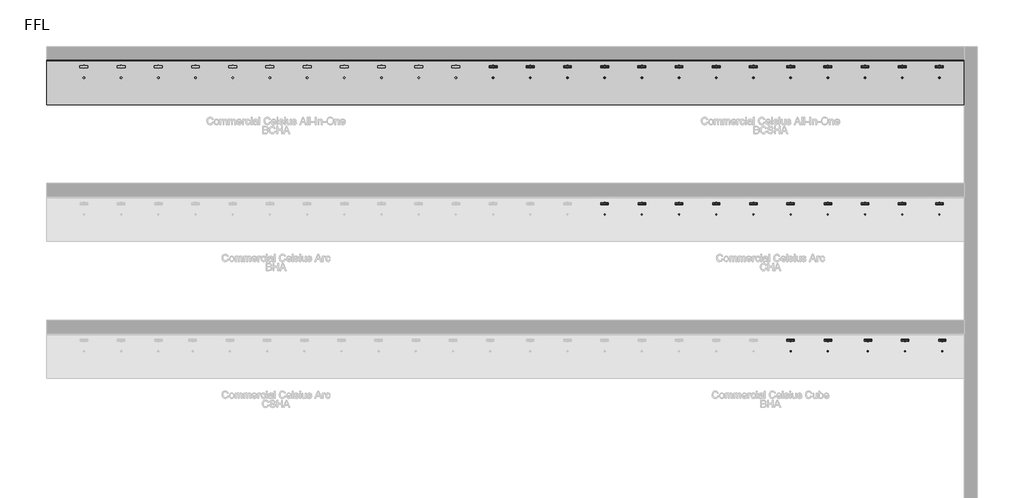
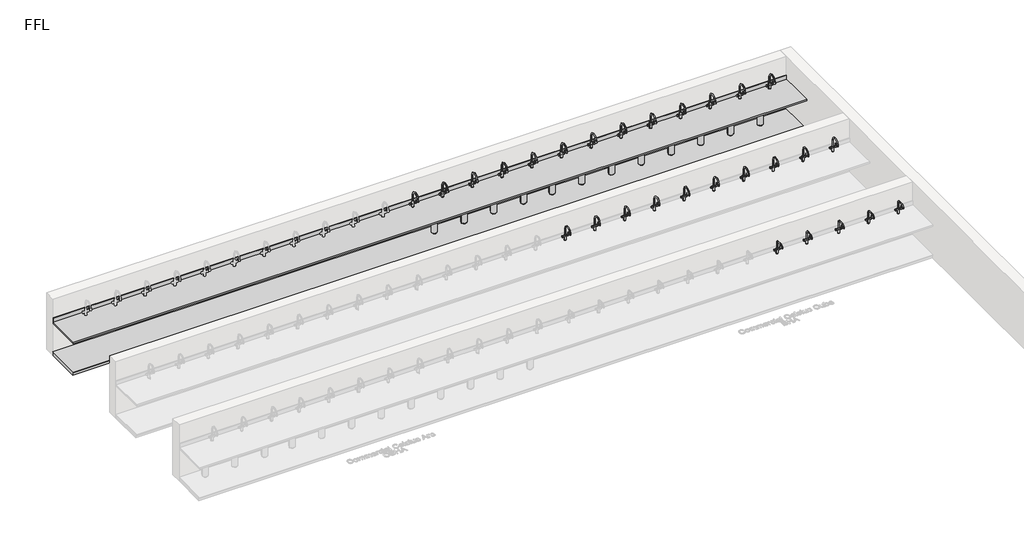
# One storey, part 4 of 10: 60 flow terminals, 2 furniture elements.
"""IFC4 building model written with IfcOpenShell, lengths in millimetres."""

from ifc_helpers import new_model, si_unit, frame, origin, place, context, project, spatial, polyline, circle_curve, transform, mapped, element, save
from ifc_brep_helpers import plane_surface, revolved_surface, advanced_brep
from components import flow_terminal_1fd3c137, bright_chrome_ca6152f3, bright_chrome_d1e259f6, co2_gas_cylinder_20234e14, bright_chrome_d5fbbf34, generic_plinth_900mm_f287d53f

model = new_model("IFC4")

# Units and contexts
model_context = context("Model", 3, world=origin())
ifc_project = project(units=[si_unit("LENGTHUNIT", "METRE", prefix="MILLI")], contexts=[model_context])

# Site, building, storey
site = spatial("IfcSite", under=ifc_project)
building = spatial("IfcBuilding", under=site)
storey = spatial("IfcBuildingStorey", under=building, Name="FFL", Elevation=0.0)

# Flow terminals
placement = place(None, origin())
flow_terminal_shape = flow_terminal_1fd3c137(model_context)
element("IfcFlowTerminal", 1, ObjectType="z_PlumFixt_Zenith_Booster : Booster", at=placement, inside=storey, context=model_context, shape_type="MappedRepresentation", body=[
    mapped(flow_terminal_shape, transform((2033.2647071, 7900.2393304, 498.0), x_axis=(1.0, 0.0, 0.0), y_axis=(0.0, 1.0, 0.0), z_axis=(0.0, 0.0, 1.0))),
])
element("IfcFlowTerminal", 2, ObjectType="z_PlumFixt_Zenith_Booster : Booster", at=placement, inside=storey, context=model_context, shape_type="MappedRepresentation", body=[
    mapped(flow_terminal_shape, transform((11032.2647071, 5140.2393304, 498.0), x_axis=(1.0, 0.0, 0.0), y_axis=(0.0, 1.0, 0.0), z_axis=(0.0, 0.0, 1.0))),
])
element("IfcFlowTerminal", 3, ObjectType="z_PlumFixt_Zenith_Booster : Booster", at=placement, inside=storey, context=model_context, shape_type="MappedRepresentation", body=[
    mapped(flow_terminal_shape, transform((10282.2647071, 5140.2393304, 498.0), x_axis=(1.0, 0.0, 0.0), y_axis=(0.0, 1.0, 0.0), z_axis=(0.0, 0.0, 1.0))),
])
element("IfcFlowTerminal", 4, ObjectType="z_PlumFixt_Zenith_Booster : Booster", at=placement, inside=storey, context=model_context, shape_type="MappedRepresentation", body=[
    mapped(flow_terminal_shape, transform((9532.2647071, 5140.2393304, 498.0), x_axis=(1.0, 0.0, 0.0), y_axis=(0.0, 1.0, 0.0), z_axis=(0.0, 0.0, 1.0))),
])
element("IfcFlowTerminal", 5, ObjectType="z_PlumFixt_Zenith_Booster : Booster", at=placement, inside=storey, context=model_context, shape_type="MappedRepresentation", body=[
    mapped(flow_terminal_shape, transform((8782.2647071, 5140.2393304, 498.0), x_axis=(1.0, 0.0, 0.0), y_axis=(0.0, 1.0, 0.0), z_axis=(0.0, 0.0, 1.0))),
])
element("IfcFlowTerminal", 6, ObjectType="z_PlumFixt_Zenith_Booster : Booster", at=placement, inside=storey, context=model_context, shape_type="MappedRepresentation", body=[
    mapped(flow_terminal_shape, transform((8032.2647071, 5140.2393304, 498.0), x_axis=(1.0, 0.0, 0.0), y_axis=(0.0, 1.0, 0.0), z_axis=(0.0, 0.0, 1.0))),
])
element("IfcFlowTerminal", 7, ObjectType="z_PlumFixt_Zenith_Booster : Booster", at=placement, inside=storey, context=model_context, shape_type="MappedRepresentation", body=[
    mapped(flow_terminal_shape, transform((7282.2647071, 5140.2393304, 498.0), x_axis=(1.0, 0.0, 0.0), y_axis=(0.0, 1.0, 0.0), z_axis=(0.0, 0.0, 1.0))),
])
element("IfcFlowTerminal", 8, ObjectType="z_PlumFixt_Zenith_Booster : Booster", at=placement, inside=storey, context=model_context, shape_type="MappedRepresentation", body=[
    mapped(flow_terminal_shape, transform((6532.2647071, 5140.2393304, 498.0), x_axis=(1.0, 0.0, 0.0), y_axis=(0.0, 1.0, 0.0), z_axis=(0.0, 0.0, 1.0))),
])
element("IfcFlowTerminal", 9, ObjectType="z_PlumFixt_Zenith_Booster : Booster", at=placement, inside=storey, context=model_context, shape_type="MappedRepresentation", body=[
    mapped(flow_terminal_shape, transform((5782.2647071, 5140.2393304, 498.0), x_axis=(1.0, 0.0, 0.0), y_axis=(0.0, 1.0, 0.0), z_axis=(0.0, 0.0, 1.0))),
])
element("IfcFlowTerminal", 10, ObjectType="z_PlumFixt_Zenith_Booster : Booster", at=placement, inside=storey, context=model_context, shape_type="MappedRepresentation", body=[
    mapped(flow_terminal_shape, transform((5032.7647071, 5140.2393304, 498.0), x_axis=(1.0, 0.0, 0.0), y_axis=(0.0, 1.0, 0.0), z_axis=(0.0, 0.0, 1.0))),
])
element("IfcFlowTerminal", 11, ObjectType="z_PlumFixt_Zenith_Booster : Booster", at=placement, inside=storey, context=model_context, shape_type="MappedRepresentation", body=[
    mapped(flow_terminal_shape, transform((4282.7647071, 5140.2393304, 498.0), x_axis=(1.0, 0.0, 0.0), y_axis=(0.0, 1.0, 0.0), z_axis=(0.0, 0.0, 1.0))),
])
element("IfcFlowTerminal", 12, ObjectType="z_PlumFixt_Zenith_Booster : Booster", at=placement, inside=storey, context=model_context, shape_type="MappedRepresentation", body=[
    mapped(flow_terminal_shape, transform((8032.2647071, 2380.2393304, 498.0), x_axis=(1.0, 0.0, 0.0), y_axis=(0.0, 1.0, 0.0), z_axis=(0.0, 0.0, 1.0))),
])
element("IfcFlowTerminal", 13, ObjectType="z_PlumFixt_Zenith_Booster : Booster", at=placement, inside=storey, context=model_context, shape_type="MappedRepresentation", body=[
    mapped(flow_terminal_shape, transform((8782.2647071, 2380.2393304, 498.0), x_axis=(1.0, 0.0, 0.0), y_axis=(0.0, 1.0, 0.0), z_axis=(0.0, 0.0, 1.0))),
])
element("IfcFlowTerminal", 14, ObjectType="z_PlumFixt_Zenith_Booster : Booster", at=placement, inside=storey, context=model_context, shape_type="MappedRepresentation", body=[
    mapped(flow_terminal_shape, transform((9589.2647071, 2380.2393304, 498.0), x_axis=(1.0, 0.0, 0.0), y_axis=(0.0, 1.0, 0.0), z_axis=(0.0, 0.0, 1.0))),
])
element("IfcFlowTerminal", 15, ObjectType="z_PlumFixt_Zenith_Booster : Booster", at=placement, inside=storey, context=model_context, shape_type="MappedRepresentation", body=[
    mapped(flow_terminal_shape, transform((10339.2647071, 2380.2393304, 498.0), x_axis=(1.0, 0.0, 0.0), y_axis=(0.0, 1.0, 0.0), z_axis=(0.0, 0.0, 1.0))),
])
element("IfcFlowTerminal", 16, ObjectType="z_PlumFixt_Zenith_Booster : Booster", at=placement, inside=storey, context=model_context, shape_type="MappedRepresentation", body=[
    mapped(flow_terminal_shape, transform((11089.2647071, 2380.2393304, 498.0), x_axis=(1.0, 0.0, 0.0), y_axis=(0.0, 1.0, 0.0), z_axis=(0.0, 0.0, 1.0))),
])
element("IfcFlowTerminal", 17, ObjectType="z_PlumFixt_Zenith_Booster : Booster", at=placement, inside=storey, context=model_context, shape_type="MappedRepresentation", body=[
    mapped(flow_terminal_shape, transform((11032.2647071, 7900.2393304, 498.0), x_axis=(1.0, 0.0, 0.0), y_axis=(0.0, 1.0, 0.0), z_axis=(0.0, 0.0, 1.0))),
])
element("IfcFlowTerminal", 18, ObjectType="z_PlumFixt_Zenith_Booster : Booster", at=placement, inside=storey, context=model_context, shape_type="MappedRepresentation", body=[
    mapped(flow_terminal_shape, transform((10282.2647071, 7900.2393304, 498.0), x_axis=(1.0, 0.0, 0.0), y_axis=(0.0, 1.0, 0.0), z_axis=(0.0, 0.0, 1.0))),
])
element("IfcFlowTerminal", 19, ObjectType="z_PlumFixt_Zenith_Booster : Booster", at=placement, inside=storey, context=model_context, shape_type="MappedRepresentation", body=[
    mapped(flow_terminal_shape, transform((9532.2647071, 7900.2393304, 498.0), x_axis=(1.0, 0.0, 0.0), y_axis=(0.0, 1.0, 0.0), z_axis=(0.0, 0.0, 1.0))),
])
element("IfcFlowTerminal", 20, ObjectType="z_PlumFixt_Zenith_Booster : Booster", at=placement, inside=storey, context=model_context, shape_type="MappedRepresentation", body=[
    mapped(flow_terminal_shape, transform((8782.2647071, 7900.2393304, 498.0), x_axis=(1.0, 0.0, 0.0), y_axis=(0.0, 1.0, 0.0), z_axis=(0.0, 0.0, 1.0))),
])
bright_chrome_shape = bright_chrome_ca6152f3(model_context)
element("IfcFlowTerminal", 21, ObjectType="z_PlumFixt_Zenith_Celsius Arc : Bright Chrome", at=placement, inside=storey, context=model_context, shape_type="MappedRepresentation", body=[
    mapped(bright_chrome_shape, transform((11032.2647071, 4864.4893304, 900.0), x_axis=(1.0, 0.0, 0.0), y_axis=(0.0, 1.0, 0.0), z_axis=(0.0, 0.0, 1.0))),
])
bright_chrome_2_shape = bright_chrome_d1e259f6(model_context)
element("IfcFlowTerminal", 22, ObjectType="z_PlumFixt_Zenith_Celsius All-In-One : Bright Chrome", at=placement, inside=storey, context=model_context, shape_type="MappedRepresentation", body=[
    mapped(bright_chrome_2_shape, transform((2782.7647071, 7637.5393304, 900.0), x_axis=(1.0, 0.0, 0.0), y_axis=(0.0, 1.0, 0.0), z_axis=(0.0, 0.0, 1.0))),
])
element("IfcFlowTerminal", 23, ObjectType="z_PlumFixt_Zenith_Celsius Arc : Brushed Chrome", at=placement, inside=storey, context=model_context, shape_type="MappedRepresentation", body=[
    mapped(bright_chrome_shape, transform((10282.2647071, 4864.4893304, 900.0), x_axis=(1.0, 0.0, 0.0), y_axis=(0.0, 1.0, 0.0), z_axis=(0.0, 0.0, 1.0))),
])
element("IfcFlowTerminal", 24, ObjectType="z_PlumFixt_Zenith_Celsius All-In-One : Brushed Chrome", at=placement, inside=storey, context=model_context, shape_type="MappedRepresentation", body=[
    mapped(bright_chrome_2_shape, transform((3532.7647071, 7637.5393304, 900.0), x_axis=(1.0, 0.0, 0.0), y_axis=(0.0, 1.0, 0.0), z_axis=(0.0, 0.0, 1.0))),
])
element("IfcFlowTerminal", 25, ObjectType="z_PlumFixt_Zenith_Celsius Arc : Brushed Gold", at=placement, inside=storey, context=model_context, shape_type="MappedRepresentation", body=[
    mapped(bright_chrome_shape, transform((9532.2647071, 4864.4893304, 900.0), x_axis=(1.0, 0.0, 0.0), y_axis=(0.0, 1.0, 0.0), z_axis=(0.0, 0.0, 1.0))),
])
element("IfcFlowTerminal", 26, ObjectType="z_PlumFixt_Zenith_Celsius All-In-One : Brushed Gold", at=placement, inside=storey, context=model_context, shape_type="MappedRepresentation", body=[
    mapped(bright_chrome_2_shape, transform((4282.7647071, 7637.5393304, 900.0), x_axis=(1.0, 0.0, 0.0), y_axis=(0.0, 1.0, 0.0), z_axis=(0.0, 0.0, 1.0))),
])
element("IfcFlowTerminal", 27, ObjectType="z_PlumFixt_Zenith_Celsius Arc : Brushed Nickel", at=placement, inside=storey, context=model_context, shape_type="MappedRepresentation", body=[
    mapped(bright_chrome_shape, transform((8782.2647071, 4864.4893304, 900.0), x_axis=(1.0, 0.0, 0.0), y_axis=(0.0, 1.0, 0.0), z_axis=(0.0, 0.0, 1.0))),
])
element("IfcFlowTerminal", 28, ObjectType="z_PlumFixt_Zenith_Celsius All-In-One : Brushed Nickel", at=placement, inside=storey, context=model_context, shape_type="MappedRepresentation", body=[
    mapped(bright_chrome_2_shape, transform((5032.7647071, 7637.5393304, 900.0), x_axis=(1.0, 0.0, 0.0), y_axis=(0.0, 1.0, 0.0), z_axis=(0.0, 0.0, 1.0))),
])
element("IfcFlowTerminal", 29, ObjectType="z_PlumFixt_Zenith_Celsius Arc : Brushed Rose Gold", at=placement, inside=storey, context=model_context, shape_type="MappedRepresentation", body=[
    mapped(bright_chrome_shape, transform((8032.2647071, 4864.4893304, 900.0), x_axis=(1.0, 0.0, 0.0), y_axis=(0.0, 1.0, 0.0), z_axis=(0.0, 0.0, 1.0))),
])
element("IfcFlowTerminal", 30, ObjectType="z_PlumFixt_Zenith_Celsius All-In-One : Brushed Rose Gold", at=placement, inside=storey, context=model_context, shape_type="MappedRepresentation", body=[
    mapped(bright_chrome_2_shape, transform((5782.2647071, 7637.5393304, 900.0), x_axis=(1.0, 0.0, 0.0), y_axis=(0.0, 1.0, 0.0), z_axis=(0.0, 0.0, 1.0))),
])
co2_gas_cylinder_shape = co2_gas_cylinder_20234e14(model_context)
element("IfcFlowTerminal", 31, ObjectType="z_PlumFixt_Zenith_CO2 Gas Cylinder : CO2 Gas Cylinder", at=placement, inside=storey, context=model_context, shape_type="MappedRepresentation", body=[
    mapped(co2_gas_cylinder_shape, transform((10737.2647071, 7525.0393304, 100.0), x_axis=(-1.0, 0.0, 0.0), y_axis=(0.0, -1.0, 0.0), z_axis=(0.0, 0.0, 1.0))),
])
element("IfcFlowTerminal", 32, ObjectType="z_PlumFixt_Zenith_CO2 Gas Cylinder : CO2 Gas Cylinder", at=placement, inside=storey, context=model_context, shape_type="MappedRepresentation", body=[
    mapped(co2_gas_cylinder_shape, transform((9987.2647071, 7525.0393304, 100.0), x_axis=(-1.0, 0.0, 0.0), y_axis=(0.0, -1.0, 0.0), z_axis=(0.0, 0.0, 1.0))),
])
element("IfcFlowTerminal", 33, ObjectType="z_PlumFixt_Zenith_CO2 Gas Cylinder : CO2 Gas Cylinder", at=placement, inside=storey, context=model_context, shape_type="MappedRepresentation", body=[
    mapped(co2_gas_cylinder_shape, transform((9237.2647071, 7525.0393304, 100.0), x_axis=(-1.0, 0.0, 0.0), y_axis=(0.0, -1.0, 0.0), z_axis=(0.0, 0.0, 1.0))),
])
element("IfcFlowTerminal", 34, ObjectType="z_PlumFixt_Zenith_CO2 Gas Cylinder : CO2 Gas Cylinder", at=placement, inside=storey, context=model_context, shape_type="MappedRepresentation", body=[
    mapped(co2_gas_cylinder_shape, transform((8487.2647071, 7525.0393304, 100.0), x_axis=(-1.0, 0.0, 0.0), y_axis=(0.0, -1.0, 0.0), z_axis=(0.0, 0.0, 1.0))),
])
element("IfcFlowTerminal", 35, ObjectType="z_PlumFixt_Zenith_CO2 Gas Cylinder : CO2 Gas Cylinder", at=placement, inside=storey, context=model_context, shape_type="MappedRepresentation", body=[
    mapped(co2_gas_cylinder_shape, transform((7737.2647071, 7525.0393304, 100.0), x_axis=(-1.0, 0.0, 0.0), y_axis=(0.0, -1.0, 0.0), z_axis=(0.0, 0.0, 1.0))),
])
element("IfcFlowTerminal", 36, ObjectType="z_PlumFixt_Zenith_CO2 Gas Cylinder : CO2 Gas Cylinder", at=placement, inside=storey, context=model_context, shape_type="MappedRepresentation", body=[
    mapped(co2_gas_cylinder_shape, transform((6987.2647071, 7525.0393304, 100.0), x_axis=(-1.0, 0.0, 0.0), y_axis=(0.0, -1.0, 0.0), z_axis=(0.0, 0.0, 1.0))),
])
element("IfcFlowTerminal", 37, ObjectType="z_PlumFixt_Zenith_CO2 Gas Cylinder : CO2 Gas Cylinder", at=placement, inside=storey, context=model_context, shape_type="MappedRepresentation", body=[
    mapped(co2_gas_cylinder_shape, transform((6237.2647071, 7525.0393304, 100.0), x_axis=(-1.0, 0.0, 0.0), y_axis=(0.0, -1.0, 0.0), z_axis=(0.0, 0.0, 1.0))),
])
element("IfcFlowTerminal", 38, ObjectType="z_PlumFixt_Zenith_CO2 Gas Cylinder : CO2 Gas Cylinder", at=placement, inside=storey, context=model_context, shape_type="MappedRepresentation", body=[
    mapped(co2_gas_cylinder_shape, transform((5487.2647071, 7525.0393304, 100.0), x_axis=(-1.0, 0.0, 0.0), y_axis=(0.0, -1.0, 0.0), z_axis=(0.0, 0.0, 1.0))),
])
element("IfcFlowTerminal", 39, ObjectType="z_PlumFixt_Zenith_CO2 Gas Cylinder : CO2 Gas Cylinder", at=placement, inside=storey, context=model_context, shape_type="MappedRepresentation", body=[
    mapped(co2_gas_cylinder_shape, transform((4765.2647071, 7526.5393304, 100.0), x_axis=(-1.0, 0.0, 0.0), y_axis=(0.0, -1.0, 0.0), z_axis=(0.0, 0.0, 1.0))),
])
element("IfcFlowTerminal", 40, ObjectType="z_PlumFixt_Zenith_CO2 Gas Cylinder : CO2 Gas Cylinder", at=placement, inside=storey, context=model_context, shape_type="MappedRepresentation", body=[
    mapped(co2_gas_cylinder_shape, transform((4015.2647071, 7526.5393304, 100.0), x_axis=(-1.0, 0.0, 0.0), y_axis=(0.0, -1.0, 0.0), z_axis=(0.0, 0.0, 1.0))),
])
element("IfcFlowTerminal", 41, ObjectType="z_PlumFixt_Zenith_CO2 Gas Cylinder : CO2 Gas Cylinder", at=placement, inside=storey, context=model_context, shape_type="MappedRepresentation", body=[
    mapped(co2_gas_cylinder_shape, transform((3265.2647071, 7526.5393304, 100.0), x_axis=(-1.0, 0.0, 0.0), y_axis=(0.0, -1.0, 0.0), z_axis=(0.0, 0.0, 1.0))),
])
element("IfcFlowTerminal", 42, ObjectType="z_PlumFixt_Zenith_CO2 Gas Cylinder : CO2 Gas Cylinder", at=placement, inside=storey, context=model_context, shape_type="MappedRepresentation", body=[
    mapped(co2_gas_cylinder_shape, transform((2515.2647071, 7526.5393304, 100.0), x_axis=(-1.0, 0.0, 0.0), y_axis=(0.0, -1.0, 0.0), z_axis=(0.0, 0.0, 1.0))),
])
element("IfcFlowTerminal", 43, ObjectType="z_PlumFixt_Zenith_Celsius Arc : Gloss Black", at=placement, inside=storey, context=model_context, shape_type="MappedRepresentation", body=[
    mapped(bright_chrome_shape, transform((7282.2647071, 4864.4893304, 900.0), x_axis=(1.0, 0.0, 0.0), y_axis=(0.0, 1.0, 0.0), z_axis=(0.0, 0.0, 1.0))),
])
element("IfcFlowTerminal", 44, ObjectType="z_PlumFixt_Zenith_Celsius All-In-One : Gloss Black", at=placement, inside=storey, context=model_context, shape_type="MappedRepresentation", body=[
    mapped(bright_chrome_2_shape, transform((6532.2647071, 7637.5393304, 900.0), x_axis=(1.0, 0.0, 0.0), y_axis=(0.0, 1.0, 0.0), z_axis=(0.0, 0.0, 1.0))),
])
element("IfcFlowTerminal", 45, ObjectType="z_PlumFixt_Zenith_Celsius Arc : Gold", at=placement, inside=storey, context=model_context, shape_type="MappedRepresentation", body=[
    mapped(bright_chrome_shape, transform((6532.2647071, 4864.4893304, 900.0), x_axis=(1.0, 0.0, 0.0), y_axis=(0.0, 1.0, 0.0), z_axis=(0.0, 0.0, 1.0))),
])
element("IfcFlowTerminal", 46, ObjectType="z_PlumFixt_Zenith_Celsius All-In-One : Gold", at=placement, inside=storey, context=model_context, shape_type="MappedRepresentation", body=[
    mapped(bright_chrome_2_shape, transform((7282.2647071, 7637.5393304, 900.0), x_axis=(1.0, 0.0, 0.0), y_axis=(0.0, 1.0, 0.0), z_axis=(0.0, 0.0, 1.0))),
])
element("IfcFlowTerminal", 47, ObjectType="z_PlumFixt_Zenith_Celsius Arc : Gunmetal", at=placement, inside=storey, context=model_context, shape_type="MappedRepresentation", body=[
    mapped(bright_chrome_shape, transform((5782.2647071, 4864.4893304, 900.0), x_axis=(1.0, 0.0, 0.0), y_axis=(0.0, 1.0, 0.0), z_axis=(0.0, 0.0, 1.0))),
])
bright_chrome_3_shape = bright_chrome_d5fbbf34(model_context)
element("IfcFlowTerminal", 48, ObjectType="z_PlumFixt_Zenith_Celsius Cube : Gunmetal", at=placement, inside=storey, context=model_context, shape_type="MappedRepresentation", body=[
    mapped(bright_chrome_3_shape, transform((8032.2647071, 2104.4893304, 900.0), x_axis=(1.0, 0.0, 0.0), y_axis=(0.0, 1.0, 0.0), z_axis=(0.0, 0.0, 1.0))),
])
element("IfcFlowTerminal", 49, ObjectType="z_PlumFixt_Zenith_Celsius All-In-One : Gunmetal", at=placement, inside=storey, context=model_context, shape_type="MappedRepresentation", body=[
    mapped(bright_chrome_2_shape, transform((8032.2647071, 7637.5393304, 900.0), x_axis=(1.0, 0.0, 0.0), y_axis=(0.0, 1.0, 0.0), z_axis=(0.0, 0.0, 1.0))),
])
element("IfcFlowTerminal", 50, ObjectType="z_PlumFixt_Zenith_Celsius Arc : Matte Black", at=placement, inside=storey, context=model_context, shape_type="MappedRepresentation", body=[
    mapped(bright_chrome_shape, transform((5032.7647071, 4864.4893304, 900.0), x_axis=(1.0, 0.0, 0.0), y_axis=(0.0, 1.0, 0.0), z_axis=(0.0, 0.0, 1.0))),
])
element("IfcFlowTerminal", 51, ObjectType="z_PlumFixt_Zenith_Celsius Cube : Matte Black", at=placement, inside=storey, context=model_context, shape_type="MappedRepresentation", body=[
    mapped(bright_chrome_3_shape, transform((8782.2647071, 2104.4893304, 900.0), x_axis=(1.0, 0.0, 0.0), y_axis=(0.0, 1.0, 0.0), z_axis=(0.0, 0.0, 1.0))),
])
element("IfcFlowTerminal", 52, ObjectType="z_PlumFixt_Zenith_Celsius All-In-One : Matte Black", at=placement, inside=storey, context=model_context, shape_type="MappedRepresentation", body=[
    mapped(bright_chrome_2_shape, transform((11032.2647071, 7637.5393304, 900.0), x_axis=(1.0, 0.0, 0.0), y_axis=(0.0, 1.0, 0.0), z_axis=(0.0, 0.0, 1.0))),
])
element("IfcFlowTerminal", 53, ObjectType="z_PlumFixt_Zenith_Celsius Arc : Nickel", at=placement, inside=storey, context=model_context, shape_type="MappedRepresentation", body=[
    mapped(bright_chrome_shape, transform((4282.7647071, 4864.4893304, 900.0), x_axis=(1.0, 0.0, 0.0), y_axis=(0.0, 1.0, 0.0), z_axis=(0.0, 0.0, 1.0))),
])
element("IfcFlowTerminal", 54, ObjectType="z_PlumFixt_Zenith_Celsius Cube : Nickel", at=placement, inside=storey, context=model_context, shape_type="MappedRepresentation", body=[
    mapped(bright_chrome_3_shape, transform((9589.2647071, 2104.4893304, 900.0), x_axis=(1.0, 0.0, 0.0), y_axis=(0.0, 1.0, 0.0), z_axis=(0.0, 0.0, 1.0))),
])
element("IfcFlowTerminal", 55, ObjectType="z_PlumFixt_Zenith_Celsius All-In-One : Nickel", at=placement, inside=storey, context=model_context, shape_type="MappedRepresentation", body=[
    mapped(bright_chrome_2_shape, transform((9532.2647071, 7637.5393304, 900.0), x_axis=(1.0, 0.0, 0.0), y_axis=(0.0, 1.0, 0.0), z_axis=(0.0, 0.0, 1.0))),
])
element("IfcFlowTerminal", 56, ObjectType="z_PlumFixt_Zenith_Celsius Cube : Platinum", at=placement, inside=storey, context=model_context, shape_type="MappedRepresentation", body=[
    mapped(bright_chrome_3_shape, transform((10339.2647071, 2104.4893304, 900.0), x_axis=(1.0, 0.0, 0.0), y_axis=(0.0, 1.0, 0.0), z_axis=(0.0, 0.0, 1.0))),
])
element("IfcFlowTerminal", 57, ObjectType="z_PlumFixt_Zenith_Celsius All-In-One : Platinum", at=placement, inside=storey, context=model_context, shape_type="MappedRepresentation", body=[
    mapped(bright_chrome_2_shape, transform((10282.2647071, 7637.5393304, 900.0), x_axis=(1.0, 0.0, 0.0), y_axis=(0.0, 1.0, 0.0), z_axis=(0.0, 0.0, 1.0))),
])
element("IfcFlowTerminal", 58, ObjectType="z_PlumFixt_Zenith_Celsius Cube : Rose Gold", at=placement, inside=storey, context=model_context, shape_type="MappedRepresentation", body=[
    mapped(bright_chrome_3_shape, transform((11089.2647071, 2104.4893304, 900.0), x_axis=(1.0, 0.0, 0.0), y_axis=(0.0, 1.0, 0.0), z_axis=(0.0, 0.0, 1.0))),
])
element("IfcFlowTerminal", 59, ObjectType="z_PlumFixt_Zenith_Celsius All-In-One : Rose Gold", at=placement, inside=storey, context=model_context, shape_type="MappedRepresentation", body=[
    mapped(bright_chrome_2_shape, transform((8782.2647071, 7637.5393304, 900.0), x_axis=(1.0, 0.0, 0.0), y_axis=(0.0, 1.0, 0.0), z_axis=(0.0, 0.0, 1.0))),
])
element("IfcFlowTerminal", 60, ObjectType="z_PlumFixt_Zenith_Celsius All-In-One : Rose Gold", at=placement, inside=storey, context=model_context, shape_type="MappedRepresentation", body=[
    mapped(bright_chrome_2_shape, transform((2033.2647071, 7637.5393304, 900.0), x_axis=(1.0, 0.0, 0.0), y_axis=(0.0, 1.0, 0.0), z_axis=(0.0, 0.0, 1.0))),
])

# Furniture
element("IfcFurniture", 61, ObjectType="Counter Top : 900mm Depth", at=placement, inside=storey, context=model_context, shape_type="AdvancedBrep", body=[
    advanced_brep(
    [(-6969.7352929, 6948.2393304, 900.0), (11530.2647071, 6948.2393304, 900.0), (11530.2647071, 7829.1893304, 900.0), (-6969.7352929, 7829.1893304, 900.0), (2757.7647071, 7714.0393304, 900.0), (2809.7647071, 7714.0393304, 900.0), (3507.7647071, 7714.0393304, 900.0), (3559.7647071, 7714.0393304, 900.0), (4257.7647071, 7714.0393304, 900.0), (4309.7647071, 7714.0393304, 900.0), (5007.7647071, 7714.0393304, 900.0), (5059.7647071, 7714.0393304, 900.0), (5757.2647071, 7714.0393304, 900.0), (5809.2647071, 7714.0393304, 900.0), (6507.2647071, 7714.0393304, 900.0), (6559.2647071, 7714.0393304, 900.0), (7257.2647071, 7714.0393304, 900.0), (7309.2647071, 7714.0393304, 900.0), (11007.2647071, 7714.0393304, 900.0), (11059.2647071, 7714.0393304, 900.0), (10257.2647071, 7714.0393304, 900.0), (10309.2647071, 7714.0393304, 900.0), (9507.2647071, 7714.0393304, 900.0), (9559.2647071, 7714.0393304, 900.0), (8757.2647071, 7714.0393304, 900.0), (8809.2647071, 7714.0393304, 900.0), (8007.2647071, 7714.0393304, 900.0), (8059.2647071, 7714.0393304, 900.0), (-6241.7352929, 7714.0393304, 900.0), (-6189.7352929, 7714.0393304, 900.0), (-5491.7352929, 7714.0393304, 900.0), (-5439.7352929, 7714.0393304, 900.0), (-4741.7352929, 7714.0393304, 900.0), (-4689.7352929, 7714.0393304, 900.0), (-3991.7352929, 7714.0393304, 900.0), (-3939.7352929, 7714.0393304, 900.0), (-3241.7352929, 7714.0393304, 900.0), (-3189.7352929, 7714.0393304, 900.0), (-2491.7352929, 7714.0393304, 900.0), (-2439.7352929, 7714.0393304, 900.0), (-1741.7352929, 7714.0393304, 900.0), (-1689.7352929, 7714.0393304, 900.0), (-991.7352929, 7714.0393304, 900.0), (-939.7352929, 7714.0393304, 900.0), (508.2647071, 7714.0393304, 900.0), (560.2647071, 7714.0393304, 900.0), (1258.2647071, 7714.0393304, 900.0), (1310.2647071, 7714.0393304, 900.0), (2008.2647071, 7714.0393304, 900.0), (2060.2647071, 7714.0393304, 900.0), (-241.7352929, 7714.0393304, 900.0), (-189.7352929, 7714.0393304, 900.0), (11530.2647071, 7848.2393304, 860.0), (11530.2647071, 6948.2393304, 860.0), (-6969.7352929, 6948.2393304, 860.0), (-6969.7352929, 7848.2393304, 860.0), (2809.7647071, 7714.0393304, 860.0), (2757.7647071, 7714.0393304, 860.0), (3559.7647071, 7714.0393304, 860.0), (3507.7647071, 7714.0393304, 860.0), (4309.7647071, 7714.0393304, 860.0), (4257.7647071, 7714.0393304, 860.0), (5059.7647071, 7714.0393304, 860.0), (5007.7647071, 7714.0393304, 860.0), (5809.2647071, 7714.0393304, 860.0), (5757.2647071, 7714.0393304, 860.0), (6559.2647071, 7714.0393304, 860.0), (6507.2647071, 7714.0393304, 860.0), (7309.2647071, 7714.0393304, 860.0), (7257.2647071, 7714.0393304, 860.0), (11059.2647071, 7714.0393304, 860.0), (11007.2647071, 7714.0393304, 860.0), (10309.2647071, 7714.0393304, 860.0), (10257.2647071, 7714.0393304, 860.0), (9559.2647071, 7714.0393304, 860.0), (9507.2647071, 7714.0393304, 860.0), (8809.2647071, 7714.0393304, 860.0), (8757.2647071, 7714.0393304, 860.0), (8059.2647071, 7714.0393304, 860.0), (8007.2647071, 7714.0393304, 860.0), (-6189.7352929, 7714.0393304, 860.0), (-6241.7352929, 7714.0393304, 860.0), (-5439.7352929, 7714.0393304, 860.0), (-5491.7352929, 7714.0393304, 860.0), (-4689.7352929, 7714.0393304, 860.0), (-4741.7352929, 7714.0393304, 860.0), (-3939.7352929, 7714.0393304, 860.0), (-3991.7352929, 7714.0393304, 860.0), (-3189.7352929, 7714.0393304, 860.0), (-3241.7352929, 7714.0393304, 860.0), (-2439.7352929, 7714.0393304, 860.0), (-2491.7352929, 7714.0393304, 860.0), (-1689.7352929, 7714.0393304, 860.0), (-1741.7352929, 7714.0393304, 860.0), (-939.7352929, 7714.0393304, 860.0), (-991.7352929, 7714.0393304, 860.0), (560.2647071, 7714.0393304, 860.0), (508.2647071, 7714.0393304, 860.0), (1310.2647071, 7714.0393304, 860.0), (1258.2647071, 7714.0393304, 860.0), (2060.2647071, 7714.0393304, 860.0), (2008.2647071, 7714.0393304, 860.0), (-189.7352929, 7714.0393304, 860.0), (-241.7352929, 7714.0393304, 860.0), (-6969.7352929, 7848.2393304, 1001.6), (11530.2647071, 7848.2393304, 1001.6), (-6969.7352929, 7829.1893304, 1001.6), (11530.2647071, 7829.1893304, 1001.6)],
    [
        (0, 1),
        (1, 2),
        (2, 3),
        (3, 0),
        (4, 5, circle_curve(frame((2783.7647071, 7714.0393304, 900.0), z_axis=(0.0, 0.0, -1.0), x_axis=(-1.0, 0.0, 0.0)), 26.0)),
        (5, 4, circle_curve(frame((2783.7647071, 7714.0393304, 900.0), z_axis=(0.0, 0.0, -1.0), x_axis=(-1.0, 0.0, 0.0)), 26.0)),
        (6, 7, circle_curve(frame((3533.7647071, 7714.0393304, 900.0), z_axis=(0.0, 0.0, -1.0), x_axis=(-1.0, 0.0, 0.0)), 26.0)),
        (7, 6, circle_curve(frame((3533.7647071, 7714.0393304, 900.0), z_axis=(0.0, 0.0, -1.0), x_axis=(-1.0, 0.0, 0.0)), 26.0)),
        (8, 9, circle_curve(frame((4283.7647071, 7714.0393304, 900.0), z_axis=(0.0, 0.0, -1.0), x_axis=(-1.0, 0.0, 0.0)), 26.0)),
        (9, 8, circle_curve(frame((4283.7647071, 7714.0393304, 900.0), z_axis=(0.0, 0.0, -1.0), x_axis=(-1.0, 0.0, 0.0)), 26.0)),
        (10, 11, circle_curve(frame((5033.7647071, 7714.0393304, 900.0), z_axis=(0.0, 0.0, -1.0), x_axis=(-1.0, 0.0, 0.0)), 26.0)),
        (11, 10, circle_curve(frame((5033.7647071, 7714.0393304, 900.0), z_axis=(0.0, 0.0, -1.0), x_axis=(-1.0, 0.0, 0.0)), 26.0)),
        (12, 13, circle_curve(frame((5783.2647071, 7714.0393304, 900.0), z_axis=(0.0, 0.0, -1.0), x_axis=(-1.0, 0.0, 0.0)), 26.0)),
        (13, 12, circle_curve(frame((5783.2647071, 7714.0393304, 900.0), z_axis=(0.0, 0.0, -1.0), x_axis=(-1.0, 0.0, 0.0)), 26.0)),
        (14, 15, circle_curve(frame((6533.2647071, 7714.0393304, 900.0), z_axis=(0.0, 0.0, -1.0), x_axis=(-1.0, 0.0, 0.0)), 26.0)),
        (15, 14, circle_curve(frame((6533.2647071, 7714.0393304, 900.0), z_axis=(0.0, 0.0, -1.0), x_axis=(-1.0, 0.0, 0.0)), 26.0)),
        (16, 17, circle_curve(frame((7283.2647071, 7714.0393304, 900.0), z_axis=(0.0, 0.0, -1.0), x_axis=(-1.0, 0.0, 0.0)), 26.0)),
        (17, 16, circle_curve(frame((7283.2647071, 7714.0393304, 900.0), z_axis=(0.0, 0.0, -1.0), x_axis=(-1.0, 0.0, 0.0)), 26.0)),
        (18, 19, circle_curve(frame((11033.2647071, 7714.0393304, 900.0), z_axis=(0.0, 0.0, -1.0), x_axis=(-1.0, 0.0, 0.0)), 26.0)),
        (19, 18, circle_curve(frame((11033.2647071, 7714.0393304, 900.0), z_axis=(0.0, 0.0, -1.0), x_axis=(-1.0, 0.0, 0.0)), 26.0)),
        (20, 21, circle_curve(frame((10283.2647071, 7714.0393304, 900.0), z_axis=(0.0, 0.0, -1.0), x_axis=(-1.0, 0.0, 0.0)), 26.0)),
        (21, 20, circle_curve(frame((10283.2647071, 7714.0393304, 900.0), z_axis=(0.0, 0.0, -1.0), x_axis=(-1.0, 0.0, 0.0)), 26.0)),
        (22, 23, circle_curve(frame((9533.2647071, 7714.0393304, 900.0), z_axis=(0.0, 0.0, -1.0), x_axis=(-1.0, 0.0, 0.0)), 26.0)),
        (23, 22, circle_curve(frame((9533.2647071, 7714.0393304, 900.0), z_axis=(0.0, 0.0, -1.0), x_axis=(-1.0, 0.0, 0.0)), 26.0)),
        (24, 25, circle_curve(frame((8783.2647071, 7714.0393304, 900.0), z_axis=(0.0, 0.0, -1.0), x_axis=(-1.0, 0.0, 0.0)), 26.0)),
        (25, 24, circle_curve(frame((8783.2647071, 7714.0393304, 900.0), z_axis=(0.0, 0.0, -1.0), x_axis=(-1.0, 0.0, 0.0)), 26.0)),
        (26, 27, circle_curve(frame((8033.2647071, 7714.0393304, 900.0), z_axis=(0.0, 0.0, -1.0), x_axis=(-1.0, 0.0, 0.0)), 26.0)),
        (27, 26, circle_curve(frame((8033.2647071, 7714.0393304, 900.0), z_axis=(0.0, 0.0, -1.0), x_axis=(-1.0, 0.0, 0.0)), 26.0)),
        (28, 29, circle_curve(frame((-6215.7352929, 7714.0393304, 900.0), z_axis=(0.0, 0.0, -1.0), x_axis=(-1.0, 0.0, 0.0)), 26.0)),
        (29, 28, circle_curve(frame((-6215.7352929, 7714.0393304, 900.0), z_axis=(0.0, 0.0, -1.0), x_axis=(-1.0, 0.0, 0.0)), 26.0)),
        (30, 31, circle_curve(frame((-5465.7352929, 7714.0393304, 900.0), z_axis=(0.0, 0.0, -1.0), x_axis=(-1.0, 0.0, 0.0)), 26.0)),
        (31, 30, circle_curve(frame((-5465.7352929, 7714.0393304, 900.0), z_axis=(0.0, 0.0, -1.0), x_axis=(-1.0, 0.0, 0.0)), 26.0)),
        (32, 33, circle_curve(frame((-4715.7352929, 7714.0393304, 900.0), z_axis=(0.0, 0.0, -1.0), x_axis=(-1.0, 0.0, 0.0)), 26.0)),
        (33, 32, circle_curve(frame((-4715.7352929, 7714.0393304, 900.0), z_axis=(0.0, 0.0, -1.0), x_axis=(-1.0, 0.0, 0.0)), 26.0)),
        (34, 35, circle_curve(frame((-3965.7352929, 7714.0393304, 900.0), z_axis=(0.0, 0.0, -1.0), x_axis=(-1.0, 0.0, 0.0)), 26.0)),
        (35, 34, circle_curve(frame((-3965.7352929, 7714.0393304, 900.0), z_axis=(0.0, 0.0, -1.0), x_axis=(-1.0, 0.0, 0.0)), 26.0)),
        (36, 37, circle_curve(frame((-3215.7352929, 7714.0393304, 900.0), z_axis=(0.0, 0.0, -1.0), x_axis=(-1.0, 0.0, 0.0)), 26.0)),
        (37, 36, circle_curve(frame((-3215.7352929, 7714.0393304, 900.0), z_axis=(0.0, 0.0, -1.0), x_axis=(-1.0, 0.0, 0.0)), 26.0)),
        (38, 39, circle_curve(frame((-2465.7352929, 7714.0393304, 900.0), z_axis=(0.0, 0.0, -1.0), x_axis=(-1.0, 0.0, 0.0)), 26.0)),
        (39, 38, circle_curve(frame((-2465.7352929, 7714.0393304, 900.0), z_axis=(0.0, 0.0, -1.0), x_axis=(-1.0, 0.0, 0.0)), 26.0)),
        (40, 41, circle_curve(frame((-1715.7352929, 7714.0393304, 900.0), z_axis=(0.0, 0.0, -1.0), x_axis=(-1.0, 0.0, 0.0)), 26.0)),
        (41, 40, circle_curve(frame((-1715.7352929, 7714.0393304, 900.0), z_axis=(0.0, 0.0, -1.0), x_axis=(-1.0, 0.0, 0.0)), 26.0)),
        (42, 43, circle_curve(frame((-965.7352929, 7714.0393304, 900.0), z_axis=(0.0, 0.0, -1.0), x_axis=(-1.0, 0.0, 0.0)), 26.0)),
        (43, 42, circle_curve(frame((-965.7352929, 7714.0393304, 900.0), z_axis=(0.0, 0.0, -1.0), x_axis=(-1.0, 0.0, 0.0)), 26.0)),
        (44, 45, circle_curve(frame((534.2647071, 7714.0393304, 900.0), z_axis=(0.0, 0.0, -1.0), x_axis=(-1.0, 0.0, 0.0)), 26.0)),
        (45, 44, circle_curve(frame((534.2647071, 7714.0393304, 900.0), z_axis=(0.0, 0.0, -1.0), x_axis=(-1.0, 0.0, 0.0)), 26.0)),
        (46, 47, circle_curve(frame((1284.2647071, 7714.0393304, 900.0), z_axis=(0.0, 0.0, -1.0), x_axis=(-1.0, 0.0, 0.0)), 26.0)),
        (47, 46, circle_curve(frame((1284.2647071, 7714.0393304, 900.0), z_axis=(0.0, 0.0, -1.0), x_axis=(-1.0, 0.0, 0.0)), 26.0)),
        (48, 49, circle_curve(frame((2034.2647071, 7714.0393304, 900.0), z_axis=(0.0, 0.0, -1.0), x_axis=(-1.0, 0.0, 0.0)), 26.0)),
        (49, 48, circle_curve(frame((2034.2647071, 7714.0393304, 900.0), z_axis=(0.0, 0.0, -1.0), x_axis=(-1.0, 0.0, 0.0)), 26.0)),
        (50, 51, circle_curve(frame((-215.7352929, 7714.0393304, 900.0), z_axis=(0.0, 0.0, -1.0), x_axis=(-1.0, 0.0, 0.0)), 26.0)),
        (51, 50, circle_curve(frame((-215.7352929, 7714.0393304, 900.0), z_axis=(0.0, 0.0, -1.0), x_axis=(-1.0, 0.0, 0.0)), 26.0)),
        (52, 53),
        (53, 54),
        (54, 55),
        (55, 52),
        (56, 57, circle_curve(frame((2783.7647071, 7714.0393304, 860.0), z_axis=(0.0, 0.0, 1.0), x_axis=(-1.0, 0.0, 0.0)), 26.0)),
        (57, 56, circle_curve(frame((2783.7647071, 7714.0393304, 860.0), z_axis=(0.0, 0.0, 1.0), x_axis=(-1.0, 0.0, 0.0)), 26.0)),
        (58, 59, circle_curve(frame((3533.7647071, 7714.0393304, 860.0), z_axis=(0.0, 0.0, 1.0), x_axis=(-1.0, 0.0, 0.0)), 26.0)),
        (59, 58, circle_curve(frame((3533.7647071, 7714.0393304, 860.0), z_axis=(0.0, 0.0, 1.0), x_axis=(-1.0, 0.0, 0.0)), 26.0)),
        (60, 61, circle_curve(frame((4283.7647071, 7714.0393304, 860.0), z_axis=(0.0, 0.0, 1.0), x_axis=(-1.0, 0.0, 0.0)), 26.0)),
        (61, 60, circle_curve(frame((4283.7647071, 7714.0393304, 860.0), z_axis=(0.0, 0.0, 1.0), x_axis=(-1.0, 0.0, 0.0)), 26.0)),
        (62, 63, circle_curve(frame((5033.7647071, 7714.0393304, 860.0), z_axis=(0.0, 0.0, 1.0), x_axis=(-1.0, 0.0, 0.0)), 26.0)),
        (63, 62, circle_curve(frame((5033.7647071, 7714.0393304, 860.0), z_axis=(0.0, 0.0, 1.0), x_axis=(-1.0, 0.0, 0.0)), 26.0)),
        (64, 65, circle_curve(frame((5783.2647071, 7714.0393304, 860.0), z_axis=(0.0, 0.0, 1.0), x_axis=(-1.0, 0.0, 0.0)), 26.0)),
        (65, 64, circle_curve(frame((5783.2647071, 7714.0393304, 860.0), z_axis=(0.0, 0.0, 1.0), x_axis=(-1.0, 0.0, 0.0)), 26.0)),
        (66, 67, circle_curve(frame((6533.2647071, 7714.0393304, 860.0), z_axis=(0.0, 0.0, 1.0), x_axis=(-1.0, 0.0, 0.0)), 26.0)),
        (67, 66, circle_curve(frame((6533.2647071, 7714.0393304, 860.0), z_axis=(0.0, 0.0, 1.0), x_axis=(-1.0, 0.0, 0.0)), 26.0)),
        (68, 69, circle_curve(frame((7283.2647071, 7714.0393304, 860.0), z_axis=(0.0, 0.0, 1.0), x_axis=(-1.0, 0.0, 0.0)), 26.0)),
        (69, 68, circle_curve(frame((7283.2647071, 7714.0393304, 860.0), z_axis=(0.0, 0.0, 1.0), x_axis=(-1.0, 0.0, 0.0)), 26.0)),
        (70, 71, circle_curve(frame((11033.2647071, 7714.0393304, 860.0), z_axis=(0.0, 0.0, 1.0), x_axis=(-1.0, 0.0, 0.0)), 26.0)),
        (71, 70, circle_curve(frame((11033.2647071, 7714.0393304, 860.0), z_axis=(0.0, 0.0, 1.0), x_axis=(-1.0, 0.0, 0.0)), 26.0)),
        (72, 73, circle_curve(frame((10283.2647071, 7714.0393304, 860.0), z_axis=(0.0, 0.0, 1.0), x_axis=(-1.0, 0.0, 0.0)), 26.0)),
        (73, 72, circle_curve(frame((10283.2647071, 7714.0393304, 860.0), z_axis=(0.0, 0.0, 1.0), x_axis=(-1.0, 0.0, 0.0)), 26.0)),
        (74, 75, circle_curve(frame((9533.2647071, 7714.0393304, 860.0), z_axis=(0.0, 0.0, 1.0), x_axis=(-1.0, 0.0, 0.0)), 26.0)),
        (75, 74, circle_curve(frame((9533.2647071, 7714.0393304, 860.0), z_axis=(0.0, 0.0, 1.0), x_axis=(-1.0, 0.0, 0.0)), 26.0)),
        (76, 77, circle_curve(frame((8783.2647071, 7714.0393304, 860.0), z_axis=(0.0, 0.0, 1.0), x_axis=(-1.0, 0.0, 0.0)), 26.0)),
        (77, 76, circle_curve(frame((8783.2647071, 7714.0393304, 860.0), z_axis=(0.0, 0.0, 1.0), x_axis=(-1.0, 0.0, 0.0)), 26.0)),
        (78, 79, circle_curve(frame((8033.2647071, 7714.0393304, 860.0), z_axis=(0.0, 0.0, 1.0), x_axis=(-1.0, 0.0, 0.0)), 26.0)),
        (79, 78, circle_curve(frame((8033.2647071, 7714.0393304, 860.0), z_axis=(0.0, 0.0, 1.0), x_axis=(-1.0, 0.0, 0.0)), 26.0)),
        (80, 81, circle_curve(frame((-6215.7352929, 7714.0393304, 860.0), z_axis=(0.0, 0.0, 1.0), x_axis=(-1.0, 0.0, 0.0)), 26.0)),
        (81, 80, circle_curve(frame((-6215.7352929, 7714.0393304, 860.0), z_axis=(0.0, 0.0, 1.0), x_axis=(-1.0, 0.0, 0.0)), 26.0)),
        (82, 83, circle_curve(frame((-5465.7352929, 7714.0393304, 860.0), z_axis=(0.0, 0.0, 1.0), x_axis=(-1.0, 0.0, 0.0)), 26.0)),
        (83, 82, circle_curve(frame((-5465.7352929, 7714.0393304, 860.0), z_axis=(0.0, 0.0, 1.0), x_axis=(-1.0, 0.0, 0.0)), 26.0)),
        (84, 85, circle_curve(frame((-4715.7352929, 7714.0393304, 860.0), z_axis=(0.0, 0.0, 1.0), x_axis=(-1.0, 0.0, 0.0)), 26.0)),
        (85, 84, circle_curve(frame((-4715.7352929, 7714.0393304, 860.0), z_axis=(0.0, 0.0, 1.0), x_axis=(-1.0, 0.0, 0.0)), 26.0)),
        (86, 87, circle_curve(frame((-3965.7352929, 7714.0393304, 860.0), z_axis=(0.0, 0.0, 1.0), x_axis=(-1.0, 0.0, 0.0)), 26.0)),
        (87, 86, circle_curve(frame((-3965.7352929, 7714.0393304, 860.0), z_axis=(0.0, 0.0, 1.0), x_axis=(-1.0, 0.0, 0.0)), 26.0)),
        (88, 89, circle_curve(frame((-3215.7352929, 7714.0393304, 860.0), z_axis=(0.0, 0.0, 1.0), x_axis=(-1.0, 0.0, 0.0)), 26.0)),
        (89, 88, circle_curve(frame((-3215.7352929, 7714.0393304, 860.0), z_axis=(0.0, 0.0, 1.0), x_axis=(-1.0, 0.0, 0.0)), 26.0)),
        (90, 91, circle_curve(frame((-2465.7352929, 7714.0393304, 860.0), z_axis=(0.0, 0.0, 1.0), x_axis=(-1.0, 0.0, 0.0)), 26.0)),
        (91, 90, circle_curve(frame((-2465.7352929, 7714.0393304, 860.0), z_axis=(0.0, 0.0, 1.0), x_axis=(-1.0, 0.0, 0.0)), 26.0)),
        (92, 93, circle_curve(frame((-1715.7352929, 7714.0393304, 860.0), z_axis=(0.0, 0.0, 1.0), x_axis=(-1.0, 0.0, 0.0)), 26.0)),
        (93, 92, circle_curve(frame((-1715.7352929, 7714.0393304, 860.0), z_axis=(0.0, 0.0, 1.0), x_axis=(-1.0, 0.0, 0.0)), 26.0)),
        (94, 95, circle_curve(frame((-965.7352929, 7714.0393304, 860.0), z_axis=(0.0, 0.0, 1.0), x_axis=(-1.0, 0.0, 0.0)), 26.0)),
        (95, 94, circle_curve(frame((-965.7352929, 7714.0393304, 860.0), z_axis=(0.0, 0.0, 1.0), x_axis=(-1.0, 0.0, 0.0)), 26.0)),
        (96, 97, circle_curve(frame((534.2647071, 7714.0393304, 860.0), z_axis=(0.0, 0.0, 1.0), x_axis=(-1.0, 0.0, 0.0)), 26.0)),
        (97, 96, circle_curve(frame((534.2647071, 7714.0393304, 860.0), z_axis=(0.0, 0.0, 1.0), x_axis=(-1.0, 0.0, 0.0)), 26.0)),
        (98, 99, circle_curve(frame((1284.2647071, 7714.0393304, 860.0), z_axis=(0.0, 0.0, 1.0), x_axis=(-1.0, 0.0, 0.0)), 26.0)),
        (99, 98, circle_curve(frame((1284.2647071, 7714.0393304, 860.0), z_axis=(0.0, 0.0, 1.0), x_axis=(-1.0, 0.0, 0.0)), 26.0)),
        (100, 101, circle_curve(frame((2034.2647071, 7714.0393304, 860.0), z_axis=(0.0, 0.0, 1.0), x_axis=(-1.0, 0.0, 0.0)), 26.0)),
        (101, 100, circle_curve(frame((2034.2647071, 7714.0393304, 860.0), z_axis=(0.0, 0.0, 1.0), x_axis=(-1.0, 0.0, 0.0)), 26.0)),
        (102, 103, circle_curve(frame((-215.7352929, 7714.0393304, 860.0), z_axis=(0.0, 0.0, 1.0), x_axis=(-1.0, 0.0, 0.0)), 26.0)),
        (103, 102, circle_curve(frame((-215.7352929, 7714.0393304, 860.0), z_axis=(0.0, 0.0, 1.0), x_axis=(-1.0, 0.0, 0.0)), 26.0)),
        (55, 104),
        (104, 105),
        (105, 52),
        (3, 106),
        (106, 104),
        (54, 0),
        (53, 1),
        (105, 107),
        (107, 2),
        (106, 107),
        (56, 5),
        (4, 57),
        (58, 7),
        (6, 59),
        (60, 9),
        (8, 61),
        (62, 11),
        (10, 63),
        (64, 13),
        (12, 65),
        (66, 15),
        (14, 67),
        (68, 17),
        (16, 69),
        (70, 19),
        (18, 71),
        (72, 21),
        (20, 73),
        (74, 23),
        (22, 75),
        (76, 25),
        (24, 77),
        (78, 27),
        (26, 79),
        (80, 29),
        (28, 81),
        (82, 31),
        (30, 83),
        (84, 33),
        (32, 85),
        (86, 35),
        (34, 87),
        (88, 37),
        (36, 89),
        (90, 39),
        (38, 91),
        (92, 41),
        (40, 93),
        (94, 43),
        (42, 95),
        (96, 45),
        (44, 97),
        (98, 47),
        (46, 99),
        (100, 49),
        (48, 101),
        (102, 51),
        (50, 103),
    ],
    [
        plane_surface(frame((-6969.7352929, 7848.2393304, 900.0), z_axis=(0.0, 0.0, 1.0), x_axis=(-1.0, 0.0, 0.0))),
        plane_surface(frame((-6969.7352929, 7848.2393304, 860.0), z_axis=(0.0, 0.0, -1.0), x_axis=(1.0, 0.0, 0.0))),
        plane_surface(frame((11530.2647071, 7848.2393304, 900.0), z_axis=(0.0, 1.0, 0.0), x_axis=(0.0, 0.0, -1.0))),
        plane_surface(frame((-6969.7352929, 7848.2393304, 900.0), z_axis=(-1.0, 0.0, 0.0), x_axis=(0.0, 0.0, -1.0))),
        plane_surface(frame((-6969.7352929, 6948.2393304, 900.0), z_axis=(0.0, -1.0, 0.0), x_axis=(0.0, 0.0, -1.0))),
        plane_surface(frame((11530.2647071, 6948.2393304, 900.0), z_axis=(1.0, 0.0, 0.0), x_axis=(0.0, 0.0, -1.0))),
        plane_surface(frame((-6969.7352929, 7848.2393304, 1001.6), z_axis=(0.0, 0.0, 1.0), x_axis=(0.0, -1.0, 0.0))),
        plane_surface(frame((-6969.7352929, 7829.1893304, 1001.6), z_axis=(0.0, -1.0, 0.0), x_axis=(0.0, 0.0, -1.0))),
        revolved_surface(polyline([(2757.7647071, 7714.0393304, 900.0), (2757.7647071, 7714.0393304, 860.0)]), (2783.7647071, 7714.0393304, 850.0), (0.0, 0.0, 1.0)),
        revolved_surface(polyline([(3507.7647071, 7714.0393304, 900.0), (3507.7647071, 7714.0393304, 860.0)]), (3533.7647071, 7714.0393304, 850.0), (0.0, 0.0, 1.0)),
        revolved_surface(polyline([(4257.7647071, 7714.0393304, 900.0), (4257.7647071, 7714.0393304, 860.0)]), (4283.7647071, 7714.0393304, 850.0), (0.0, 0.0, 1.0)),
        revolved_surface(polyline([(5007.7647071, 7714.0393304, 900.0), (5007.7647071, 7714.0393304, 860.0)]), (5033.7647071, 7714.0393304, 850.0), (0.0, 0.0, 1.0)),
        revolved_surface(polyline([(5757.2647071, 7714.0393304, 900.0), (5757.2647071, 7714.0393304, 860.0)]), (5783.2647071, 7714.0393304, 850.0), (0.0, 0.0, 1.0)),
        revolved_surface(polyline([(6507.2647071, 7714.0393304, 900.0), (6507.2647071, 7714.0393304, 860.0)]), (6533.2647071, 7714.0393304, 850.0), (0.0, 0.0, 1.0)),
        revolved_surface(polyline([(7257.2647071, 7714.0393304, 900.0), (7257.2647071, 7714.0393304, 860.0)]), (7283.2647071, 7714.0393304, 850.0), (0.0, 0.0, 1.0)),
        revolved_surface(polyline([(11007.2647071, 7714.0393304, 900.0), (11007.2647071, 7714.0393304, 860.0)]), (11033.2647071, 7714.0393304, 850.0), (0.0, 0.0, 1.0)),
        revolved_surface(polyline([(10257.2647071, 7714.0393304, 900.0), (10257.2647071, 7714.0393304, 860.0)]), (10283.2647071, 7714.0393304, 850.0), (0.0, 0.0, 1.0)),
        revolved_surface(polyline([(9507.2647071, 7714.0393304, 900.0), (9507.2647071, 7714.0393304, 860.0)]), (9533.2647071, 7714.0393304, 850.0), (0.0, 0.0, 1.0)),
        revolved_surface(polyline([(8757.2647071, 7714.0393304, 900.0), (8757.2647071, 7714.0393304, 860.0)]), (8783.2647071, 7714.0393304, 850.0), (0.0, 0.0, 1.0)),
        revolved_surface(polyline([(8007.2647071, 7714.0393304, 900.0), (8007.2647071, 7714.0393304, 860.0)]), (8033.2647071, 7714.0393304, 850.0), (0.0, 0.0, 1.0)),
        revolved_surface(polyline([(-6241.7352929, 7714.0393304, 900.0), (-6241.7352929, 7714.0393304, 860.0)]), (-6215.7352929, 7714.0393304, 850.0), (0.0, 0.0, 1.0)),
        revolved_surface(polyline([(-5491.7352929, 7714.0393304, 900.0), (-5491.7352929, 7714.0393304, 860.0)]), (-5465.7352929, 7714.0393304, 850.0), (0.0, 0.0, 1.0)),
        revolved_surface(polyline([(-4741.7352929, 7714.0393304, 900.0), (-4741.7352929, 7714.0393304, 860.0)]), (-4715.7352929, 7714.0393304, 850.0), (0.0, 0.0, 1.0)),
        revolved_surface(polyline([(-3991.7352929, 7714.0393304, 900.0), (-3991.7352929, 7714.0393304, 860.0)]), (-3965.7352929, 7714.0393304, 850.0), (0.0, 0.0, 1.0)),
        revolved_surface(polyline([(-3241.7352929, 7714.0393304, 900.0), (-3241.7352929, 7714.0393304, 860.0)]), (-3215.7352929, 7714.0393304, 850.0), (0.0, 0.0, 1.0)),
        revolved_surface(polyline([(-2491.7352929, 7714.0393304, 900.0), (-2491.7352929, 7714.0393304, 860.0)]), (-2465.7352929, 7714.0393304, 850.0), (0.0, 0.0, 1.0)),
        revolved_surface(polyline([(-1741.7352929, 7714.0393304, 900.0), (-1741.7352929, 7714.0393304, 860.0)]), (-1715.7352929, 7714.0393304, 850.0), (0.0, 0.0, 1.0)),
        revolved_surface(polyline([(-991.7352929, 7714.0393304, 900.0), (-991.7352929, 7714.0393304, 860.0)]), (-965.7352929, 7714.0393304, 850.0), (0.0, 0.0, 1.0)),
        revolved_surface(polyline([(508.2647071, 7714.0393304, 900.0), (508.2647071, 7714.0393304, 860.0)]), (534.2647071, 7714.0393304, 850.0), (0.0, 0.0, 1.0)),
        revolved_surface(polyline([(1258.2647071, 7714.0393304, 900.0), (1258.2647071, 7714.0393304, 860.0)]), (1284.2647071, 7714.0393304, 850.0), (0.0, 0.0, 1.0)),
        revolved_surface(polyline([(2008.2647071, 7714.0393304, 900.0), (2008.2647071, 7714.0393304, 860.0)]), (2034.2647071, 7714.0393304, 850.0), (0.0, 0.0, 1.0)),
        revolved_surface(polyline([(-241.7352929, 7714.0393304, 900.0), (-241.7352929, 7714.0393304, 860.0)]), (-215.7352929, 7714.0393304, 850.0), (0.0, 0.0, 1.0)),
    ],
    [
        (0, [[1, 2, 3, 4], [5, 6], [7, 8], [9, 10], [11, 12], [13, 14], [15, 16], [17, 18], [19, 20], [21, 22], [23, 24], [25, 26], [27, 28], [29, 30], [31, 32], [33, 34], [35, 36], [37, 38], [39, 40], [41, 42], [43, 44], [45, 46], [47, 48], [49, 50], [51, 52]]),
        (1, [[53, 54, 55, 56], [57, 58], [59, 60], [61, 62], [63, 64], [65, 66], [67, 68], [69, 70], [71, 72], [73, 74], [75, 76], [77, 78], [79, 80], [81, 82], [83, 84], [85, 86], [87, 88], [89, 90], [91, 92], [93, 94], [95, 96], [97, 98], [99, 100], [101, 102], [103, 104]]),
        (2, [[-56, 105, 106, 107]]),
        (3, [[-4, 108, 109, -105, -55, 110]]),
        (4, [[-1, -110, -54, 111]]),
        (5, [[-2, -111, -53, -107, 112, 113]]),
        (6, [[-106, -109, 114, -112]]),
        (7, [[-3, -113, -114, -108]]),
        (8, [[115, -5, 116, -57]]),
        (8, [[-115, -58, -116, -6]]),
        (9, [[117, -7, 118, -59]]),
        (9, [[-117, -60, -118, -8]]),
        (10, [[119, -9, 120, -61]]),
        (10, [[-119, -62, -120, -10]]),
        (11, [[121, -11, 122, -63]]),
        (11, [[-121, -64, -122, -12]]),
        (12, [[123, -13, 124, -65]]),
        (12, [[-123, -66, -124, -14]]),
        (13, [[125, -15, 126, -67]]),
        (13, [[-125, -68, -126, -16]]),
        (14, [[127, -17, 128, -69]]),
        (14, [[-127, -70, -128, -18]]),
        (15, [[129, -19, 130, -71]]),
        (15, [[-129, -72, -130, -20]]),
        (16, [[131, -21, 132, -73]]),
        (16, [[-131, -74, -132, -22]]),
        (17, [[133, -23, 134, -75]]),
        (17, [[-133, -76, -134, -24]]),
        (18, [[135, -25, 136, -77]]),
        (18, [[-135, -78, -136, -26]]),
        (19, [[137, -27, 138, -79]]),
        (19, [[-137, -80, -138, -28]]),
        (20, [[139, -29, 140, -81]]),
        (20, [[-139, -82, -140, -30]]),
        (21, [[141, -31, 142, -83]]),
        (21, [[-141, -84, -142, -32]]),
        (22, [[143, -33, 144, -85]]),
        (22, [[-143, -86, -144, -34]]),
        (23, [[145, -35, 146, -87]]),
        (23, [[-145, -88, -146, -36]]),
        (24, [[147, -37, 148, -89]]),
        (24, [[-147, -90, -148, -38]]),
        (25, [[149, -39, 150, -91]]),
        (25, [[-149, -92, -150, -40]]),
        (26, [[151, -41, 152, -93]]),
        (26, [[-151, -94, -152, -42]]),
        (27, [[153, -43, 154, -95]]),
        (27, [[-153, -96, -154, -44]]),
        (28, [[155, -45, 156, -97]]),
        (28, [[-155, -98, -156, -46]]),
        (29, [[157, -47, 158, -99]]),
        (29, [[-157, -100, -158, -48]]),
        (30, [[159, -49, 160, -101]]),
        (30, [[-159, -102, -160, -50]]),
        (31, [[161, -51, 162, -103]]),
        (31, [[-161, -104, -162, -52]]),
    ],
),
])
generic_plinth_900mm_shape = generic_plinth_900mm_f287d53f(model_context)
element("IfcFurniture", 62, ObjectType="Generic Plinth : 900mm", at=placement, inside=storey, context=model_context, shape_type="MappedRepresentation", body=[
    mapped(generic_plinth_900mm_shape, transform((2261.5270022, 7848.2393304, 0.0), x_axis=(1.0, 0.0, 0.0), y_axis=(0.0, 1.0, 0.0), z_axis=(0.0, 0.0, 1.0))),
])

save(model, "model.ifc")
